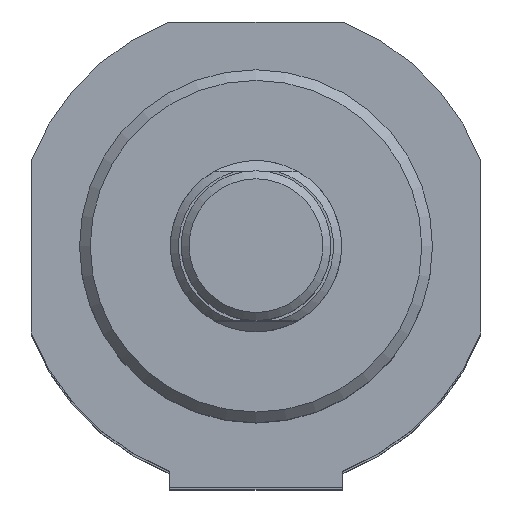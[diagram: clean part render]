
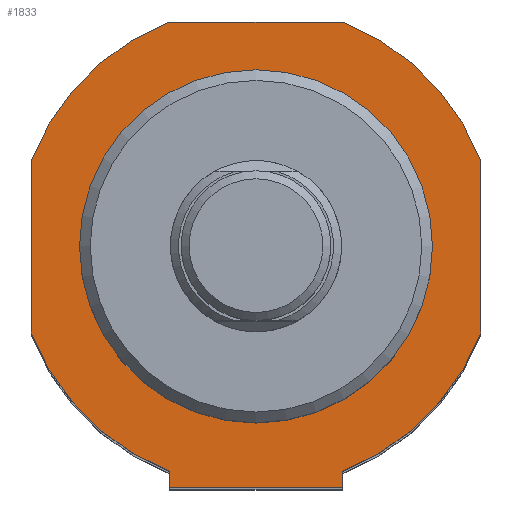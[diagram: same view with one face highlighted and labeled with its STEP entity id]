
A CAD part, top view. The second image highlights one B-rep face of the part: STEP entity #1833.
In plain terms, the highlighted planar face has unit normal (0, 0, 1).
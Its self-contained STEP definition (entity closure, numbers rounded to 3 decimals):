
#898=CARTESIAN_POINT('',(8.078,-22.5,174.));
#899=VERTEX_POINT('',#898);
#900=CARTESIAN_POINT('',(-8.078,-22.5,174.));
#901=VERTEX_POINT('',#900);
#902=CARTESIAN_POINT('',(8.078,-22.5,174.));
#903=DIRECTION('',(-1.0,0.0,0.0));
#904=VECTOR('',#903,16.155);
#905=LINE('',#902,#904);
#906=EDGE_CURVE('',#899,#901,#905,.T.);
#1054=CARTESIAN_POINT('',(-8.078,-21.,174.));
#1055=VERTEX_POINT('',#1054);
#1069=CARTESIAN_POINT('',(-8.078,-21.,174.));
#1070=DIRECTION('',(0.0,-1.0,0.0));
#1071=VECTOR('',#1070,1.5);
#1072=LINE('',#1069,#1071);
#1073=EDGE_CURVE('',#1055,#901,#1072,.T.);
#1085=CARTESIAN_POINT('',(8.078,-21.,174.));
#1086=VERTEX_POINT('',#1085);
#1093=CARTESIAN_POINT('',(8.078,-21.,174.));
#1094=DIRECTION('',(0.0,-1.0,0.0));
#1095=VECTOR('',#1094,1.5);
#1096=LINE('',#1093,#1095);
#1097=EDGE_CURVE('',#1086,#899,#1096,.T.);
#1561=CARTESIAN_POINT('',(16.5,0.,174.));
#1562=VERTEX_POINT('',#1561);
#1563=CARTESIAN_POINT('',(0.,0.,174.));
#1564=DIRECTION('',(0.0,0.0,-1.0));
#1565=DIRECTION('',(-1.0,0.0,0.0));
#1566=AXIS2_PLACEMENT_3D('',#1563,#1564,#1565);
#1567=CIRCLE('',#1566,16.5);
#1568=EDGE_CURVE('',#1562,#1562,#1567,.T.);
#1653=CARTESIAN_POINT('',(-8.078,21.,174.));
#1654=VERTEX_POINT('',#1653);
#1655=CARTESIAN_POINT('',(8.078,21.,174.));
#1656=VERTEX_POINT('',#1655);
#1657=CARTESIAN_POINT('',(-8.078,21.,174.));
#1658=DIRECTION('',(1.0,0.0,0.0));
#1659=VECTOR('',#1658,16.155);
#1660=LINE('',#1657,#1659);
#1661=EDGE_CURVE('',#1654,#1656,#1660,.T.);
#1684=CARTESIAN_POINT('',(21.,8.078,174.));
#1685=VERTEX_POINT('',#1684);
#1686=CARTESIAN_POINT('',(0.,0.,174.));
#1687=DIRECTION('',(0.,0.,-1.0));
#1688=DIRECTION('',(0.933,0.359,0.));
#1689=AXIS2_PLACEMENT_3D('',#1686,#1687,#1688);
#1690=CIRCLE('',#1689,22.5);
#1691=EDGE_CURVE('',#1656,#1685,#1690,.T.);
#1709=CARTESIAN_POINT('',(21.,-8.078,174.));
#1710=VERTEX_POINT('',#1709);
#1711=CARTESIAN_POINT('',(21.,8.078,174.));
#1712=DIRECTION('',(0.0,-1.0,0.0));
#1713=VECTOR('',#1712,16.155);
#1714=LINE('',#1711,#1713);
#1715=EDGE_CURVE('',#1685,#1710,#1714,.T.);
#1733=CARTESIAN_POINT('',(0.,0.,174.));
#1734=DIRECTION('',(0.,0.,-1.));
#1735=DIRECTION('',(0.359,-0.933,0.));
#1736=AXIS2_PLACEMENT_3D('',#1733,#1734,#1735);
#1737=CIRCLE('',#1736,22.5);
#1738=EDGE_CURVE('',#1710,#1086,#1737,.T.);
#1751=CARTESIAN_POINT('',(-21.,-8.078,174.));
#1752=VERTEX_POINT('',#1751);
#1753=CARTESIAN_POINT('',(0.,0.,174.));
#1754=DIRECTION('',(0.,0.,-1.0));
#1755=DIRECTION('',(-0.933,-0.359,0.));
#1756=AXIS2_PLACEMENT_3D('',#1753,#1754,#1755);
#1757=CIRCLE('',#1756,22.5);
#1758=EDGE_CURVE('',#1055,#1752,#1757,.T.);
#1776=CARTESIAN_POINT('',(-21.,8.078,174.));
#1777=VERTEX_POINT('',#1776);
#1778=CARTESIAN_POINT('',(-21.,-8.078,174.));
#1779=DIRECTION('',(0.0,1.0,0.0));
#1780=VECTOR('',#1779,16.155);
#1781=LINE('',#1778,#1780);
#1782=EDGE_CURVE('',#1752,#1777,#1781,.T.);
#1800=CARTESIAN_POINT('',(0.,0.,174.));
#1801=DIRECTION('',(0.,0.,-1.));
#1802=DIRECTION('',(-0.359,0.933,0.));
#1803=AXIS2_PLACEMENT_3D('',#1800,#1801,#1802);
#1804=CIRCLE('',#1803,22.5);
#1805=EDGE_CURVE('',#1777,#1654,#1804,.T.);
#1813=CARTESIAN_POINT('',(0.,0.0,174.));
#1814=DIRECTION('',(0.0,0.0,1.0));
#1815=DIRECTION('',(1.0,0.0,0.0));
#1816=AXIS2_PLACEMENT_3D('',#1813,#1814,#1815);
#1817=PLANE('',#1816);
#1818=ORIENTED_EDGE('',*,*,#1661,.F.);
#1819=ORIENTED_EDGE('',*,*,#1805,.F.);
#1820=ORIENTED_EDGE('',*,*,#1782,.F.);
#1821=ORIENTED_EDGE('',*,*,#1758,.F.);
#1822=ORIENTED_EDGE('',*,*,#1073,.T.);
#1823=ORIENTED_EDGE('',*,*,#906,.F.);
#1824=ORIENTED_EDGE('',*,*,#1097,.F.);
#1825=ORIENTED_EDGE('',*,*,#1738,.F.);
#1826=ORIENTED_EDGE('',*,*,#1715,.F.);
#1827=ORIENTED_EDGE('',*,*,#1691,.F.);
#1828=EDGE_LOOP('',(#1818,#1819,#1820,#1821,#1822,#1823,#1824,#1825,#1826,#1827));
#1829=FACE_OUTER_BOUND('',#1828,.T.);
#1830=ORIENTED_EDGE('',*,*,#1568,.T.);
#1831=EDGE_LOOP('',(#1830));
#1832=FACE_BOUND('',#1831,.T.);
#1833=ADVANCED_FACE('',(#1829,#1832),#1817,.T.);
